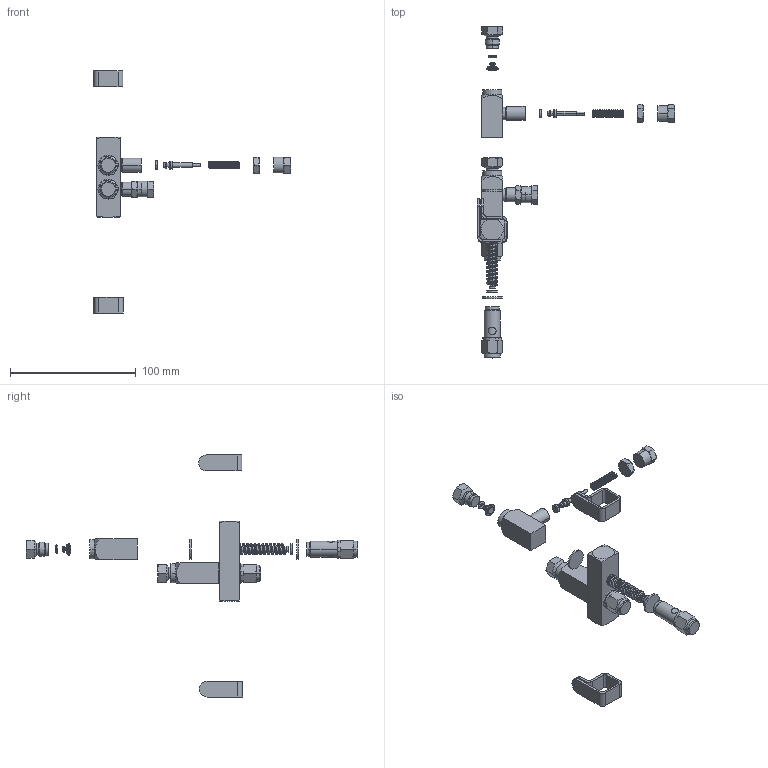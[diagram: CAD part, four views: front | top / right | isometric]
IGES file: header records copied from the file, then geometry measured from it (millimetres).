
Start section:  PTC IGES file: 24z542-en-e.igs
Global section: file name: 24z542-en-e.igs; native system: Creo Parametric by PTC Inc.; preprocessor: 2021072; author: qtmwp1; organization: Unknown; date: 20220214.120057; units: inch
Bounding box: 156.58 x 263.62 x 192.27 mm (x, y, z)
Surface area: 30219.9 mm2 (no closed solid volume)
Topology: 0 solids, 0 shells, 426 faces, 1778 edges, 1778 vertices
Faces by surface type: revolution 235, bspline 191
